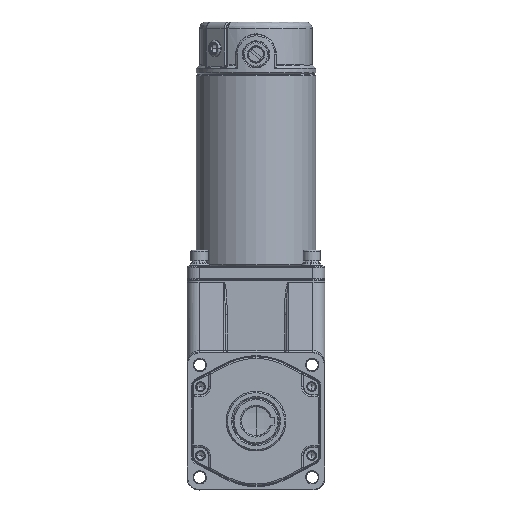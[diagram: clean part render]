
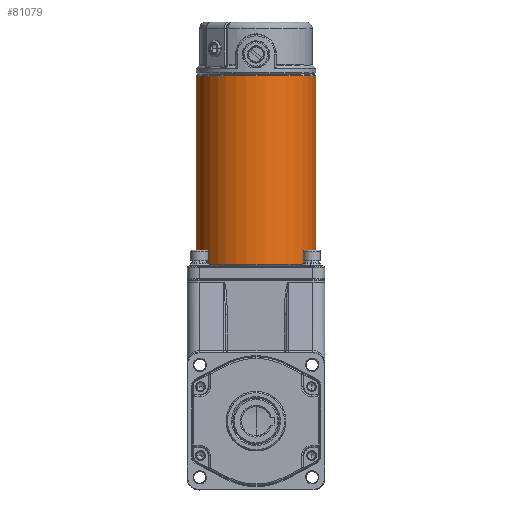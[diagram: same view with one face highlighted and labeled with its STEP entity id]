
A CAD part, front view. The second image highlights one B-rep face of the part: STEP entity #81079.
In plain terms, the highlighted cylindrical face has radius 45 mm (diameter 90 mm), a partial arc.
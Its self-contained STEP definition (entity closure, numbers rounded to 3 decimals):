
#1677 = DIRECTION ( 'NONE',  ( 0., 1., 0. ) ) ;
#9688 = VERTEX_POINT ( 'NONE', #21987 ) ;
#9922 = ORIENTED_EDGE ( 'NONE', *, *, #29740, .T. ) ;
#14851 = VERTEX_POINT ( 'NONE', #54867 ) ;
#17109 = ORIENTED_EDGE ( 'NONE', *, *, #97173, .T. ) ;
#21615 = EDGE_CURVE ( 'NONE', #41979, #14851, #100844, .T. ) ;
#21987 = CARTESIAN_POINT ( 'NONE',  ( 0., 144., -45. ) ) ;
#24978 = DIRECTION ( 'NONE',  ( 0., -1., 0. ) ) ;
#28955 = AXIS2_PLACEMENT_3D ( 'NONE', #119243, #1677, #60704 ) ;
#29740 = EDGE_CURVE ( 'NONE', #9688, #14851, #53625, .T. ) ;
#32628 = VECTOR ( 'NONE', #123205, 1000. ) ;
#37001 = EDGE_LOOP ( 'NONE', ( #17109, #113377, #9922, #53805 ) ) ;
#41979 = VERTEX_POINT ( 'NONE', #98767 ) ;
#45418 = FACE_OUTER_BOUND ( 'NONE', #37001, .T. ) ;
#46073 = DIRECTION ( 'NONE',  ( 0., 0., 1. ) ) ;
#47332 = DIRECTION ( 'NONE',  ( 0., 1., 0. ) ) ;
#53625 = CIRCLE ( 'NONE', #109071, 45. ) ;
#53805 = ORIENTED_EDGE ( 'NONE', *, *, #21615, .F. ) ;
#54867 = CARTESIAN_POINT ( 'NONE',  ( 0., 144., 45. ) ) ;
#60704 = DIRECTION ( 'NONE',  ( 0., 0., 1. ) ) ;
#61634 = AXIS2_PLACEMENT_3D ( 'NONE', #106208, #47332, #46073 ) ;
#67353 = CIRCLE ( 'NONE', #61634, 45. ) ;
#71163 = EDGE_CURVE ( 'NONE', #96368, #9688, #122869, .T. ) ;
#71726 = CYLINDRICAL_SURFACE ( 'NONE', #28955, 45. ) ;
#72236 = CARTESIAN_POINT ( 'NONE',  ( 0., 1., -45. ) ) ;
#81079 = ADVANCED_FACE ( 'NONE', ( #45418 ), #71726, .T. ) ;
#83957 = CARTESIAN_POINT ( 'NONE',  ( 0., 144., 0. ) ) ;
#92760 = CARTESIAN_POINT ( 'NONE',  ( 0., 0., 45. ) ) ;
#94320 = DIRECTION ( 'NONE',  ( 0., 0., 1. ) ) ;
#96368 = VERTEX_POINT ( 'NONE', #72236 ) ;
#97173 = EDGE_CURVE ( 'NONE', #41979, #96368, #67353, .T. ) ;
#98767 = CARTESIAN_POINT ( 'NONE',  ( 0., 1., 45. ) ) ;
#100844 = LINE ( 'NONE', #92760, #32628 ) ;
#106208 = CARTESIAN_POINT ( 'NONE',  ( 0., 1., 0. ) ) ;
#107981 = CARTESIAN_POINT ( 'NONE',  ( 0., 0., -45. ) ) ;
#109071 = AXIS2_PLACEMENT_3D ( 'NONE', #83957, #24978, #94320 ) ;
#109259 = DIRECTION ( 'NONE',  ( 0., 1., 0. ) ) ;
#113377 = ORIENTED_EDGE ( 'NONE', *, *, #71163, .T. ) ;
#113470 = VECTOR ( 'NONE', #109259, 1000. ) ;
#119243 = CARTESIAN_POINT ( 'NONE',  ( 0., 0., 0. ) ) ;
#122869 = LINE ( 'NONE', #107981, #113470 ) ;
#123205 = DIRECTION ( 'NONE',  ( 0., 1., 0. ) ) ;
